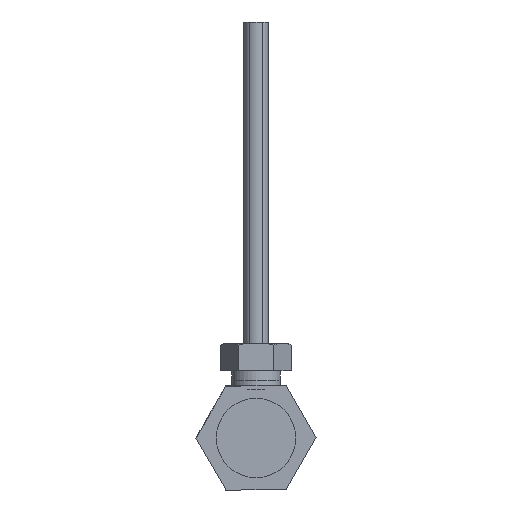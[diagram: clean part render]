
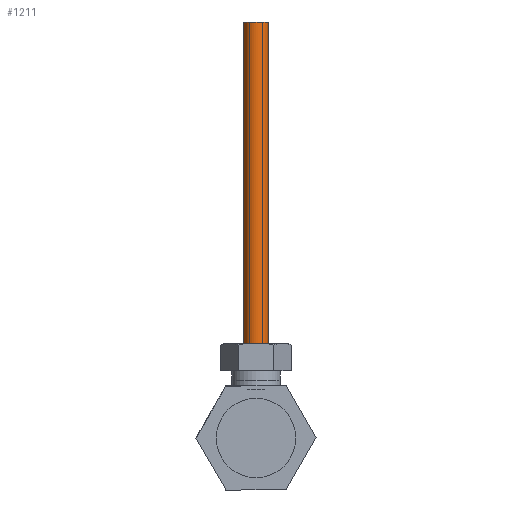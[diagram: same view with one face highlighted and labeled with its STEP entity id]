
A CAD part, front view. The second image highlights one B-rep face of the part: STEP entity #1211.
In plain terms, the highlighted cylindrical face has radius 2 mm (diameter 4 mm), a full revolution.
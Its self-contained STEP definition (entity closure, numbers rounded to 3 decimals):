
#207=CYLINDRICAL_SURFACE('',#1837,2.);
#450=ORIENTED_EDGE('',*,*,#578,.T.);
#451=ORIENTED_EDGE('',*,*,#579,.F.);
#578=EDGE_CURVE('',#686,#686,#758,.T.);
#579=EDGE_CURVE('',#687,#687,#759,.T.);
#686=VERTEX_POINT('',#2653);
#687=VERTEX_POINT('',#2655);
#758=CIRCLE('',#1838,2.);
#759=CIRCLE('',#1839,2.);
#916=EDGE_LOOP('',(#450));
#917=EDGE_LOOP('',(#451));
#1080=FACE_BOUND('',#916,.T.);
#1081=FACE_BOUND('',#917,.T.);
#1211=ADVANCED_FACE('',(#1080,#1081),#207,.T.);
#1837=AXIS2_PLACEMENT_3D('',#2651,#2211,#2212);
#1838=AXIS2_PLACEMENT_3D('',#2652,#2213,#2214);
#1839=AXIS2_PLACEMENT_3D('',#2654,#2215,#2216);
#2211=DIRECTION('',(0.,0.,-1.));
#2212=DIRECTION('',(-1.,0.,0.));
#2213=DIRECTION('',(0.,0.,-1.));
#2214=DIRECTION('',(1.,0.,0.));
#2215=DIRECTION('',(0.,0.,-1.));
#2216=DIRECTION('',(1.,0.,0.));
#2651=CARTESIAN_POINT('',(0.,0.,70.));
#2652=CARTESIAN_POINT('',(0.,0.,70.));
#2653=CARTESIAN_POINT('',(2.,0.,70.));
#2654=CARTESIAN_POINT('',(0.,0.,0.));
#2655=CARTESIAN_POINT('',(2.,0.,0.));
